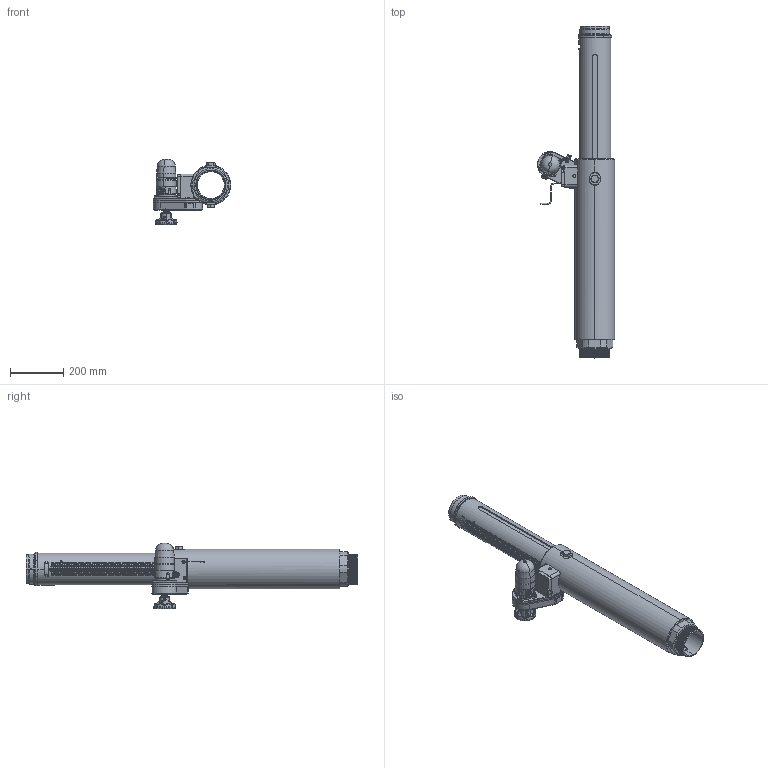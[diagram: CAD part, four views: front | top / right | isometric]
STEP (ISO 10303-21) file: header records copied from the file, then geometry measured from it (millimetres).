
FILE_DESCRIPTION (( 'STEP AP203' ), '1' );
FILE_NAME ('XGA48BP-RP_Extended.STEP', '2014-07-03T15:09:07', ( '' ), ( '' ), 'SwSTEP 2.0', 'SolidWorks 2014', '' );
FILE_SCHEMA (( 'CONFIG_CONTROL_DESIGN' ));
Products named in the file (1): XGA48BP-RP_Extended
Bounding box: 291.73 x 1250.82 x 245.81 mm (x, y, z)
Surface area: 1054394.5 mm2 (no closed solid volume)
Topology: 0 solids, 46 shells, 816 faces, 3174 edges, 2301 vertices
Faces by surface type: plane 384, cylinder 252, cone 77, bspline 52, torus 49, sphere 2
Entity records: 44430 total; most frequent: CARTESIAN_POINT 20440, ORIENTED_EDGE 4994, DIRECTION 4354, EDGE_CURVE 3168, VERTEX_POINT 2301, AXIS2_PLACEMENT_3D 1465, VECTOR 1424, LINE 1424
